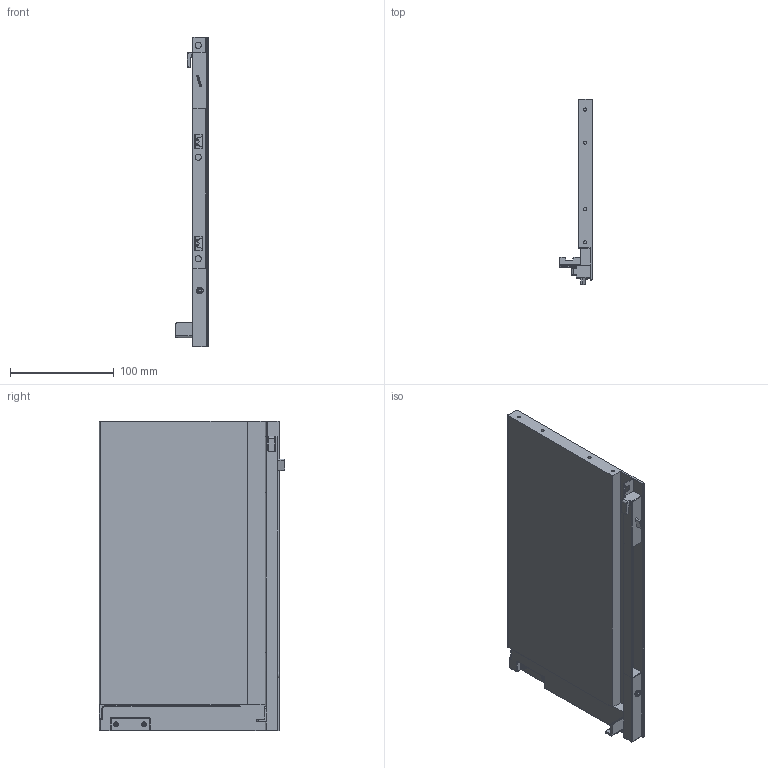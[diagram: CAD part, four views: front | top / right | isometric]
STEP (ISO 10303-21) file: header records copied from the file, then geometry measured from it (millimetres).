
FILE_DESCRIPTION (( 'STEP AP203' ), '1' );
FILE_NAME ('HT133001-R.STEP', '2022-06-28T08:31:56', ( 'Users' ), ( 'Microsoft' ), 'SwSTEP 2.0', 'SolidWorks 2018', '' );
FILE_SCHEMA (( 'CONFIG_CONTROL_DESIGN' ));
Length unit declared in the file: millimetre
Products named in the file (1): HT133001-R
Bounding box: 31.3 x 179 x 299 mm (x, y, z)
Volume: 591310.8 mm3; surface area: 132699.5 mm2
Topology: 1 solids, 8 shells, 373 faces, 936 edges, 581 vertices
Faces by surface type: plane 176, cylinder 133, torus 29, bspline 23, cone 6, sphere 6
Entity records: 11621 total; most frequent: CARTESIAN_POINT 2750, ORIENTED_EDGE 1854, DIRECTION 1808, EDGE_CURVE 927, AXIS2_PLACEMENT_3D 621, VERTEX_POINT 581, VECTOR 566, LINE 566
